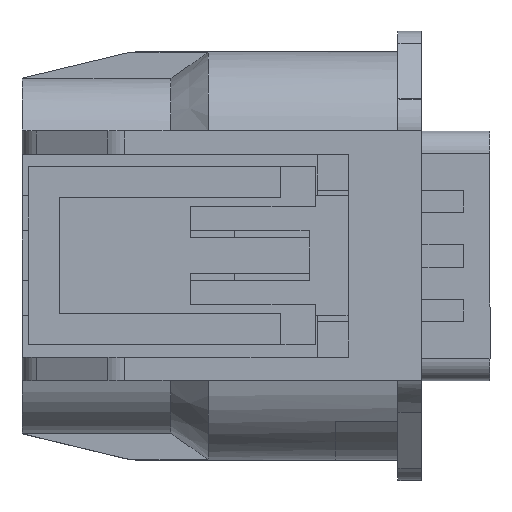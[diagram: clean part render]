
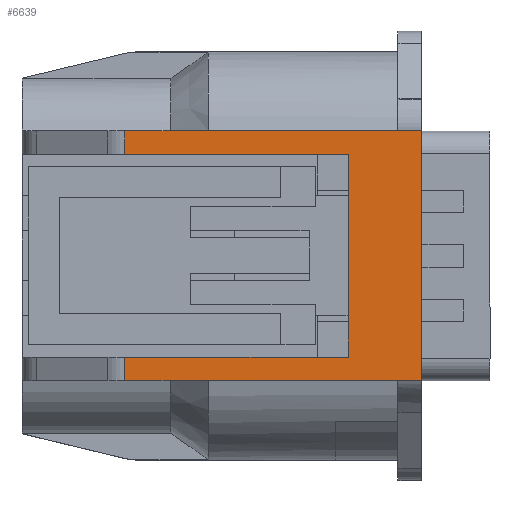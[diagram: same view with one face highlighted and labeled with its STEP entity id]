
A CAD part, top view. The second image highlights one B-rep face of the part: STEP entity #6639.
In plain terms, the highlighted planar face has unit normal (0, 0, 1).
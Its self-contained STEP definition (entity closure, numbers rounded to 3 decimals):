
#6610=AXIS2_PLACEMENT_3D('Plane Axis2P3D',#6607,#6608,#6609) ;
#1860=CARTESIAN_POINT('Vertex',(-9.1,6.5,12.3)) ;
#1863=CARTESIAN_POINT('Line Origine',(-16.25,6.5,12.3)) ;
#1867=CARTESIAN_POINT('Vertex',(-23.401,6.5,12.3)) ;
#1908=CARTESIAN_POINT('Line Origine',(-23.401,0.,12.3)) ;
#1912=CARTESIAN_POINT('Vertex',(-23.401,8.,12.3)) ;
#1970=CARTESIAN_POINT('Line Origine',(-13.9,8.,12.3)) ;
#1974=CARTESIAN_POINT('Vertex',(-4.4,8.,12.3)) ;
#4808=CARTESIAN_POINT('Vertex',(-4.4,-8.,12.3)) ;
#4811=CARTESIAN_POINT('Line Origine',(-13.9,-8.,12.3)) ;
#4815=CARTESIAN_POINT('Vertex',(-23.401,-8.,12.3)) ;
#6592=CARTESIAN_POINT('Vertex',(-23.401,-6.5,12.3)) ;
#6595=CARTESIAN_POINT('Line Origine',(-23.401,0.,12.3)) ;
#6607=CARTESIAN_POINT('Axis2P3D Location',(-3.9,8.,12.3)) ;
#6612=CARTESIAN_POINT('Line Origine',(-9.1,0.,12.3)) ;
#6616=CARTESIAN_POINT('Vertex',(-9.1,-6.5,12.3)) ;
#6619=CARTESIAN_POINT('Line Origine',(-16.25,-6.5,12.3)) ;
#6624=CARTESIAN_POINT('Line Origine',(-4.4,0.,12.3)) ;
#1864=DIRECTION('Vector Direction',(1.,0.,0.)) ;
#1909=DIRECTION('Vector Direction',(0.,-1.,0.)) ;
#1971=DIRECTION('Vector Direction',(-1.,0.,0.)) ;
#4812=DIRECTION('Vector Direction',(1.,0.,0.)) ;
#6596=DIRECTION('Vector Direction',(0.,1.,0.)) ;
#6608=DIRECTION('Axis2P3D Direction',(0.,0.,1.)) ;
#6609=DIRECTION('Axis2P3D XDirection',(0.,1.,0.)) ;
#6613=DIRECTION('Vector Direction',(0.,1.,0.)) ;
#6620=DIRECTION('Vector Direction',(-1.,0.,0.)) ;
#6625=DIRECTION('Vector Direction',(0.,1.,0.)) ;
#1865=VECTOR('Line Direction',#1864,1.) ;
#1910=VECTOR('Line Direction',#1909,1.) ;
#1972=VECTOR('Line Direction',#1971,1.) ;
#4813=VECTOR('Line Direction',#4812,1.) ;
#6597=VECTOR('Line Direction',#6596,1.) ;
#6614=VECTOR('Line Direction',#6613,1.) ;
#6621=VECTOR('Line Direction',#6620,1.) ;
#6626=VECTOR('Line Direction',#6625,1.) ;
#6630=ORIENTED_EDGE('',*,*,#1869,.T.) ;
#6631=ORIENTED_EDGE('',*,*,#6618,.F.) ;
#6632=ORIENTED_EDGE('',*,*,#6623,.T.) ;
#6633=ORIENTED_EDGE('',*,*,#6599,.F.) ;
#6634=ORIENTED_EDGE('',*,*,#4817,.T.) ;
#6635=ORIENTED_EDGE('',*,*,#6628,.T.) ;
#6636=ORIENTED_EDGE('',*,*,#1976,.T.) ;
#6637=ORIENTED_EDGE('',*,*,#1914,.T.) ;
#6639=ADVANCED_FACE('OLD CPA',(#6638),#6611,.T.) ;
#1869=EDGE_CURVE('',#1868,#1861,#1866,.T.) ;
#1914=EDGE_CURVE('',#1913,#1868,#1911,.T.) ;
#1976=EDGE_CURVE('',#1975,#1913,#1973,.T.) ;
#4817=EDGE_CURVE('',#4816,#4809,#4814,.T.) ;
#6599=EDGE_CURVE('',#4816,#6593,#6598,.T.) ;
#6618=EDGE_CURVE('',#6617,#1861,#6615,.T.) ;
#6623=EDGE_CURVE('',#6617,#6593,#6622,.T.) ;
#6628=EDGE_CURVE('',#4809,#1975,#6627,.T.) ;
#6629=EDGE_LOOP('',(#6630,#6631,#6632,#6633,#6634,#6635,#6636,#6637)) ;
#6638=FACE_OUTER_BOUND('',#6629,.T.) ;
#1866=LINE('Line',#1863,#1865) ;
#1911=LINE('Line',#1908,#1910) ;
#1973=LINE('Line',#1970,#1972) ;
#4814=LINE('Line',#4811,#4813) ;
#6598=LINE('Line',#6595,#6597) ;
#6615=LINE('Line',#6612,#6614) ;
#6622=LINE('Line',#6619,#6621) ;
#6627=LINE('Line',#6624,#6626) ;
#6611=PLANE('',#6610) ;
#1861=VERTEX_POINT('',#1860) ;
#1868=VERTEX_POINT('',#1867) ;
#1913=VERTEX_POINT('',#1912) ;
#1975=VERTEX_POINT('',#1974) ;
#4809=VERTEX_POINT('',#4808) ;
#4816=VERTEX_POINT('',#4815) ;
#6593=VERTEX_POINT('',#6592) ;
#6617=VERTEX_POINT('',#6616) ;
